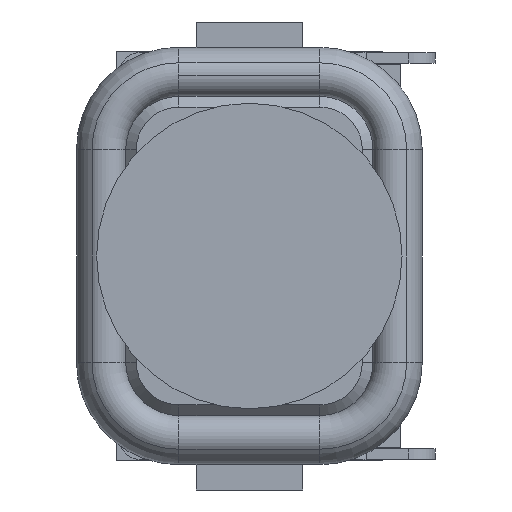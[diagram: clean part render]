
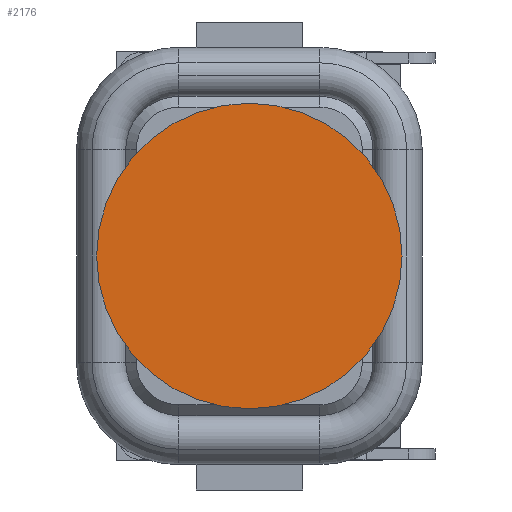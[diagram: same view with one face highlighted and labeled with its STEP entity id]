
A CAD part, left-side view. The second image highlights one B-rep face of the part: STEP entity #2176.
In plain terms, the highlighted planar face has unit normal (-1, 0, 0).
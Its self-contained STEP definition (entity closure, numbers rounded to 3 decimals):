
#1097=PLANE('',#22362);
#2176=ADVANCED_FACE('',(#3591),#1097,.T.);
#3591=FACE_OUTER_BOUND('',#4711,.T.);
#4711=EDGE_LOOP('',(#11400,#11401));
#5383=CIRCLE('',#22321,2.872);
#5409=CIRCLE('',#22361,2.872);
#11400=ORIENTED_EDGE('',*,*,#16374,.T.);
#11401=ORIENTED_EDGE('',*,*,#16425,.T.);
#13371=VERTEX_POINT('',#35657);
#13372=VERTEX_POINT('',#35659);
#16374=EDGE_CURVE('',#13372,#13371,#5383,.T.);
#16425=EDGE_CURVE('',#13371,#13372,#5409,.T.);
#22321=AXIS2_PLACEMENT_3D('',#35658,#27785,#27786);
#22361=AXIS2_PLACEMENT_3D('',#35768,#27890,#27891);
#22362=AXIS2_PLACEMENT_3D('',#35769,#27892,#27893);
#27785=DIRECTION('',(-1.,0.,0.));
#27786=DIRECTION('',(0.,0.,1.));
#27890=DIRECTION('',(-1.,0.,0.));
#27891=DIRECTION('',(0.,0.,1.));
#27892=DIRECTION('',(-1.,0.,0.));
#27893=DIRECTION('',(0.,0.,-1.));
#35657=CARTESIAN_POINT('',(-10.596,0.,-6.472));
#35658=CARTESIAN_POINT('',(-10.596,0.,-3.6));
#35659=CARTESIAN_POINT('',(-10.596,0.,-0.728));
#35768=CARTESIAN_POINT('',(-10.596,0.,-3.6));
#35769=CARTESIAN_POINT('',(-10.596,-2.906,-6.506));
